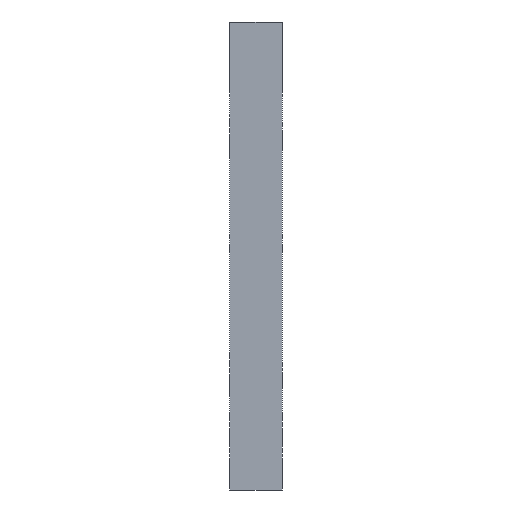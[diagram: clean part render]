
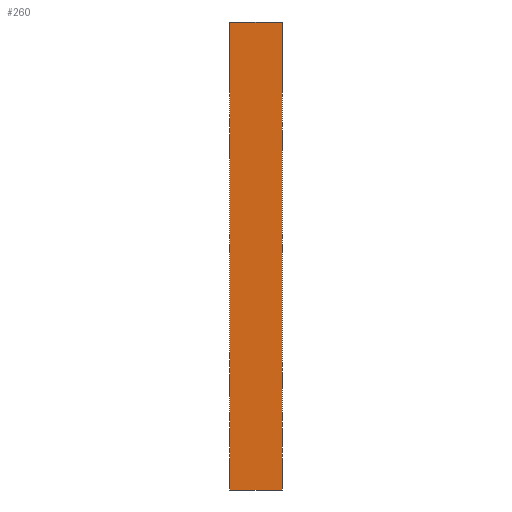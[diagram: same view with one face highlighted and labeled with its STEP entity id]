
A CAD part, left-side view. The second image highlights one B-rep face of the part: STEP entity #260.
In plain terms, the highlighted planar face has unit normal (-1, 0, 0).
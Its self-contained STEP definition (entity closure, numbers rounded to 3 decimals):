
#7 = ORIENTED_EDGE ( 'NONE', *, *, #258, .T. ) ;
#14 = CARTESIAN_POINT ( 'NONE',  ( -98., 22., -98. ) ) ;
#47 = LINE ( 'NONE', #14, #550 ) ;
#74 = DIRECTION ( 'NONE',  ( 0., 0., 1. ) ) ;
#95 = CARTESIAN_POINT ( 'NONE',  ( -98., 22., 98. ) ) ;
#144 = ORIENTED_EDGE ( 'NONE', *, *, #211, .T. ) ;
#157 = VERTEX_POINT ( 'NONE', #612 ) ;
#162 = LINE ( 'NONE', #1010, #717 ) ;
#180 = VERTEX_POINT ( 'NONE', #435 ) ;
#198 = DIRECTION ( 'NONE',  ( 0., 0., -1. ) ) ;
#208 = DIRECTION ( 'NONE',  ( 1., 0., 0. ) ) ;
#211 = EDGE_CURVE ( 'NONE', #157, #180, #375, .T. ) ;
#258 = EDGE_CURVE ( 'NONE', #396, #157, #47, .T. ) ;
#260 = ADVANCED_FACE ( 'NONE', ( #902 ), #374, .F. ) ;
#291 = CARTESIAN_POINT ( 'NONE',  ( -98., 22., 98. ) ) ;
#360 = ORIENTED_EDGE ( 'NONE', *, *, #529, .F. ) ;
#374 = PLANE ( 'NONE',  #861 ) ;
#375 = LINE ( 'NONE', #458, #691 ) ;
#396 = VERTEX_POINT ( 'NONE', #419 ) ;
#419 = CARTESIAN_POINT ( 'NONE',  ( -98., 22., -98. ) ) ;
#435 = CARTESIAN_POINT ( 'NONE',  ( -98., 0., 98. ) ) ;
#458 = CARTESIAN_POINT ( 'NONE',  ( -98., 0., 98. ) ) ;
#529 = EDGE_CURVE ( 'NONE', #396, #969, #162, .T. ) ;
#541 = DIRECTION ( 'NONE',  ( 0., -1., 0. ) ) ;
#550 = VECTOR ( 'NONE', #801, 1000. ) ;
#565 = EDGE_LOOP ( 'NONE', ( #144, #686, #360, #7 ) ) ;
#609 = EDGE_CURVE ( 'NONE', #969, #180, #731, .T. ) ;
#612 = CARTESIAN_POINT ( 'NONE',  ( -98., 0., -98. ) ) ;
#615 = CARTESIAN_POINT ( 'NONE',  ( -98., 22., 98. ) ) ;
#686 = ORIENTED_EDGE ( 'NONE', *, *, #609, .F. ) ;
#691 = VECTOR ( 'NONE', #1026, 1000. ) ;
#717 = VECTOR ( 'NONE', #74, 1000. ) ;
#731 = LINE ( 'NONE', #95, #989 ) ;
#801 = DIRECTION ( 'NONE',  ( 0., -1., 0. ) ) ;
#861 = AXIS2_PLACEMENT_3D ( 'NONE', #291, #208, #198 ) ;
#902 = FACE_OUTER_BOUND ( 'NONE', #565, .T. ) ;
#969 = VERTEX_POINT ( 'NONE', #615 ) ;
#989 = VECTOR ( 'NONE', #541, 1000. ) ;
#1010 = CARTESIAN_POINT ( 'NONE',  ( -98., 22., 98. ) ) ;
#1026 = DIRECTION ( 'NONE',  ( 0., 0., 1. ) ) ;
